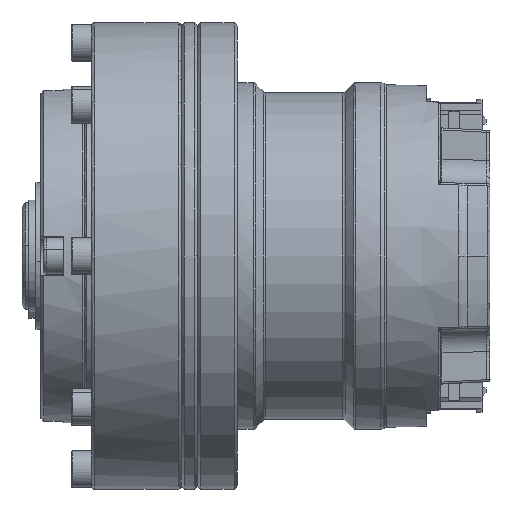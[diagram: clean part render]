
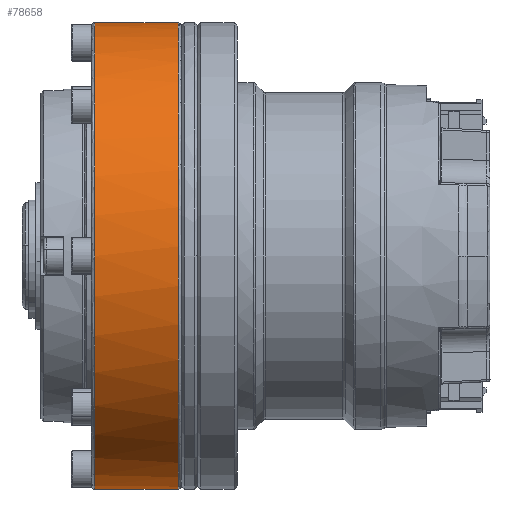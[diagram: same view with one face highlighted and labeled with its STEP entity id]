
A CAD part, left-side view. The second image highlights one B-rep face of the part: STEP entity #78658.
In plain terms, the highlighted cylindrical face has radius 35 mm (diameter 70 mm), a partial arc.
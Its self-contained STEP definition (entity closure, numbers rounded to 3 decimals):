
#195 = AXIS2_PLACEMENT_3D ( 'NONE', #53846, #44437, #73915 ) ;
#319 = DIRECTION ( 'NONE',  ( 0., 0., 1. ) ) ;
#6210 = EDGE_LOOP ( 'NONE', ( #57443, #12235, #71990, #8710 ) ) ;
#8710 = ORIENTED_EDGE ( 'NONE', *, *, #108793, .F. ) ;
#9358 = CARTESIAN_POINT ( 'NONE',  ( 0., -0.1, 35. ) ) ;
#12235 = ORIENTED_EDGE ( 'NONE', *, *, #40557, .T. ) ;
#17590 = VERTEX_POINT ( 'NONE', #105805 ) ;
#18051 = CARTESIAN_POINT ( 'NONE',  ( -70., -0.1, 35. ) ) ;
#18184 = CARTESIAN_POINT ( 'NONE',  ( 0., -0.6, 0. ) ) ;
#22439 = VERTEX_POINT ( 'NONE', #9358 ) ;
#23035 = DIRECTION ( 'NONE',  ( 0., -1., 0. ) ) ;
#40557 = EDGE_CURVE ( 'NONE', #17590, #59085, #100218, .T. ) ;
#41377 = CIRCLE ( 'NONE', #195, 35. ) ;
#42790 = EDGE_CURVE ( 'NONE', #65132, #17590, #41377, .T. ) ;
#44437 = DIRECTION ( 'NONE',  ( 0., -1., 0. ) ) ;
#45765 = VECTOR ( 'NONE', #68460, 1000. ) ;
#46231 = CARTESIAN_POINT ( 'NONE',  ( -70., -0.1, -35. ) ) ;
#47864 = CARTESIAN_POINT ( 'NONE',  ( 0., -0.1, 35. ) ) ;
#53733 = CYLINDRICAL_SURFACE ( 'NONE', #105263, 35. ) ;
#53846 = CARTESIAN_POINT ( 'NONE',  ( 0., 12.4, 0. ) ) ;
#55619 =( BOUNDED_CURVE ( )  B_SPLINE_CURVE ( 3, ( #115269, #46231, #18051, #47864 ),
 .UNSPECIFIED., .F., .T. ) 
 B_SPLINE_CURVE_WITH_KNOTS ( ( 4, 4 ),
 ( 0., 208.939 ),
 .UNSPECIFIED. ) 
 CURVE ( )  GEOMETRIC_REPRESENTATION_ITEM ( )  RATIONAL_B_SPLINE_CURVE ( ( 1., 0.333, 0.333, 1. ) ) 
 REPRESENTATION_ITEM ( '' )  );
#57443 = ORIENTED_EDGE ( 'NONE', *, *, #42790, .T. ) ;
#59085 = VERTEX_POINT ( 'NONE', #66377 ) ;
#61091 = CARTESIAN_POINT ( 'NONE',  ( 0., -0.6, -35. ) ) ;
#65132 = VERTEX_POINT ( 'NONE', #72779 ) ;
#66377 = CARTESIAN_POINT ( 'NONE',  ( 0., -0.1, -35. ) ) ;
#68460 = DIRECTION ( 'NONE',  ( 0., -1., 0. ) ) ;
#71990 = ORIENTED_EDGE ( 'NONE', *, *, #96536, .T. ) ;
#72779 = CARTESIAN_POINT ( 'NONE',  ( 0., 12.4, 35. ) ) ;
#73915 = DIRECTION ( 'NONE',  ( -1., 0., 0. ) ) ;
#76731 = FACE_OUTER_BOUND ( 'NONE', #6210, .T. ) ;
#78658 = ADVANCED_FACE ( 'NONE', ( #76731 ), #53733, .T. ) ;
#79482 = CARTESIAN_POINT ( 'NONE',  ( 0., -0.6, 35. ) ) ;
#96536 = EDGE_CURVE ( 'NONE', #59085, #22439, #55619, .T. ) ;
#96943 = DIRECTION ( 'NONE',  ( 0., -1., 0. ) ) ;
#100218 = LINE ( 'NONE', #61091, #101816 ) ;
#101816 = VECTOR ( 'NONE', #23035, 1000. ) ;
#105263 = AXIS2_PLACEMENT_3D ( 'NONE', #18184, #96943, #319 ) ;
#105805 = CARTESIAN_POINT ( 'NONE',  ( 0., 12.4, -35. ) ) ;
#108793 = EDGE_CURVE ( 'NONE', #65132, #22439, #111314, .T. ) ;
#111314 = LINE ( 'NONE', #79482, #45765 ) ;
#115269 = CARTESIAN_POINT ( 'NONE',  ( 0., -0.1, -35. ) ) ;
